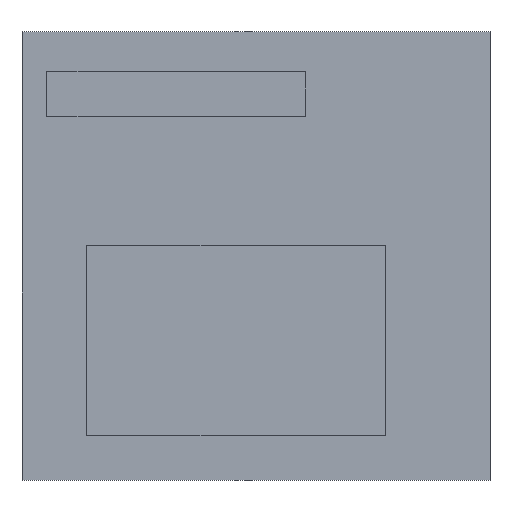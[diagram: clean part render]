
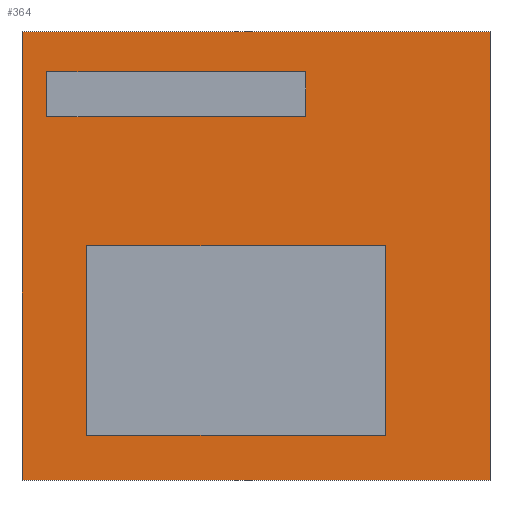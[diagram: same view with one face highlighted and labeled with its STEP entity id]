
A CAD part, top view. The second image highlights one B-rep face of the part: STEP entity #364.
In plain terms, the highlighted planar face has unit normal (0, 0, 1).
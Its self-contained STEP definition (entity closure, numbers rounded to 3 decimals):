
#50 = VERTEX_POINT('',#51);
#51 = CARTESIAN_POINT('',(-47.,-45.,0.8));
#58 = PLANE('',#59);
#59 = AXIS2_PLACEMENT_3D('',#60,#61,#62);
#60 = CARTESIAN_POINT('',(-47.,-45.,-0.8));
#61 = DIRECTION('',(1.,0.,-0.));
#62 = DIRECTION('',(0.,0.,1.));
#70 = PLANE('',#71);
#71 = AXIS2_PLACEMENT_3D('',#72,#73,#74);
#72 = CARTESIAN_POINT('',(-47.,-45.,-0.8));
#73 = DIRECTION('',(-0.,1.,0.));
#74 = DIRECTION('',(0.,0.,1.));
#111 = VERTEX_POINT('',#112);
#112 = CARTESIAN_POINT('',(-47.,45.,0.8));
#126 = PLANE('',#127);
#127 = AXIS2_PLACEMENT_3D('',#128,#129,#130);
#128 = CARTESIAN_POINT('',(-47.,45.,-0.8));
#129 = DIRECTION('',(-0.,1.,0.));
#130 = DIRECTION('',(0.,0.,1.));
#138 = EDGE_CURVE('',#50,#111,#139,.T.);
#139 = SURFACE_CURVE('',#140,(#144,#151),.PCURVE_S1.);
#140 = LINE('',#141,#142);
#141 = CARTESIAN_POINT('',(-47.,-45.,0.8));
#142 = VECTOR('',#143,1.);
#143 = DIRECTION('',(-0.,1.,0.));
#144 = PCURVE('',#58,#145);
#145 = DEFINITIONAL_REPRESENTATION('',(#146),#150);
#146 = LINE('',#147,#148);
#147 = CARTESIAN_POINT('',(1.6,0.));
#148 = VECTOR('',#149,1.);
#149 = DIRECTION('',(0.,-1.));
#150 = ( GEOMETRIC_REPRESENTATION_CONTEXT(2) 
PARAMETRIC_REPRESENTATION_CONTEXT() REPRESENTATION_CONTEXT('2D SPACE',''
  ) );
#151 = PCURVE('',#152,#157);
#152 = PLANE('',#153);
#153 = AXIS2_PLACEMENT_3D('',#154,#155,#156);
#154 = CARTESIAN_POINT('',(-47.,-45.,0.8));
#155 = DIRECTION('',(0.,0.,1.));
#156 = DIRECTION('',(1.,0.,-0.));
#157 = DEFINITIONAL_REPRESENTATION('',(#158),#162);
#158 = LINE('',#159,#160);
#159 = CARTESIAN_POINT('',(0.,0.));
#160 = VECTOR('',#161,1.);
#161 = DIRECTION('',(0.,1.));
#162 = ( GEOMETRIC_REPRESENTATION_CONTEXT(2) 
PARAMETRIC_REPRESENTATION_CONTEXT() REPRESENTATION_CONTEXT('2D SPACE',''
  ) );
#170 = VERTEX_POINT('',#171);
#171 = CARTESIAN_POINT('',(47.,-45.,0.8));
#178 = PLANE('',#179);
#179 = AXIS2_PLACEMENT_3D('',#180,#181,#182);
#180 = CARTESIAN_POINT('',(47.,-45.,-0.8));
#181 = DIRECTION('',(1.,0.,-0.));
#182 = DIRECTION('',(0.,0.,1.));
#221 = VERTEX_POINT('',#222);
#222 = CARTESIAN_POINT('',(47.,45.,0.8));
#243 = EDGE_CURVE('',#170,#221,#244,.T.);
#244 = SURFACE_CURVE('',#245,(#249,#256),.PCURVE_S1.);
#245 = LINE('',#246,#247);
#246 = CARTESIAN_POINT('',(47.,-45.,0.8));
#247 = VECTOR('',#248,1.);
#248 = DIRECTION('',(-0.,1.,0.));
#249 = PCURVE('',#178,#250);
#250 = DEFINITIONAL_REPRESENTATION('',(#251),#255);
#251 = LINE('',#252,#253);
#252 = CARTESIAN_POINT('',(1.6,0.));
#253 = VECTOR('',#254,1.);
#254 = DIRECTION('',(0.,-1.));
#255 = ( GEOMETRIC_REPRESENTATION_CONTEXT(2) 
PARAMETRIC_REPRESENTATION_CONTEXT() REPRESENTATION_CONTEXT('2D SPACE',''
  ) );
#256 = PCURVE('',#152,#257);
#257 = DEFINITIONAL_REPRESENTATION('',(#258),#262);
#258 = LINE('',#259,#260);
#259 = CARTESIAN_POINT('',(94.,0.));
#260 = VECTOR('',#261,1.);
#261 = DIRECTION('',(0.,1.));
#262 = ( GEOMETRIC_REPRESENTATION_CONTEXT(2) 
PARAMETRIC_REPRESENTATION_CONTEXT() REPRESENTATION_CONTEXT('2D SPACE',''
  ) );
#289 = EDGE_CURVE('',#50,#170,#290,.T.);
#290 = SURFACE_CURVE('',#291,(#295,#302),.PCURVE_S1.);
#291 = LINE('',#292,#293);
#292 = CARTESIAN_POINT('',(-47.,-45.,0.8));
#293 = VECTOR('',#294,1.);
#294 = DIRECTION('',(1.,0.,-0.));
#295 = PCURVE('',#70,#296);
#296 = DEFINITIONAL_REPRESENTATION('',(#297),#301);
#297 = LINE('',#298,#299);
#298 = CARTESIAN_POINT('',(1.6,0.));
#299 = VECTOR('',#300,1.);
#300 = DIRECTION('',(0.,1.));
#301 = ( GEOMETRIC_REPRESENTATION_CONTEXT(2) 
PARAMETRIC_REPRESENTATION_CONTEXT() REPRESENTATION_CONTEXT('2D SPACE',''
  ) );
#302 = PCURVE('',#152,#303);
#303 = DEFINITIONAL_REPRESENTATION('',(#304),#308);
#304 = LINE('',#305,#306);
#305 = CARTESIAN_POINT('',(0.,0.));
#306 = VECTOR('',#307,1.);
#307 = DIRECTION('',(1.,0.));
#308 = ( GEOMETRIC_REPRESENTATION_CONTEXT(2) 
PARAMETRIC_REPRESENTATION_CONTEXT() REPRESENTATION_CONTEXT('2D SPACE',''
  ) );
#336 = EDGE_CURVE('',#111,#221,#337,.T.);
#337 = SURFACE_CURVE('',#338,(#342,#349),.PCURVE_S1.);
#338 = LINE('',#339,#340);
#339 = CARTESIAN_POINT('',(-47.,45.,0.8));
#340 = VECTOR('',#341,1.);
#341 = DIRECTION('',(1.,0.,-0.));
#342 = PCURVE('',#126,#343);
#343 = DEFINITIONAL_REPRESENTATION('',(#344),#348);
#344 = LINE('',#345,#346);
#345 = CARTESIAN_POINT('',(1.6,0.));
#346 = VECTOR('',#347,1.);
#347 = DIRECTION('',(0.,1.));
#348 = ( GEOMETRIC_REPRESENTATION_CONTEXT(2) 
PARAMETRIC_REPRESENTATION_CONTEXT() REPRESENTATION_CONTEXT('2D SPACE',''
  ) );
#349 = PCURVE('',#152,#350);
#350 = DEFINITIONAL_REPRESENTATION('',(#351),#355);
#351 = LINE('',#352,#353);
#352 = CARTESIAN_POINT('',(0.,90.));
#353 = VECTOR('',#354,1.);
#354 = DIRECTION('',(1.,0.));
#355 = ( GEOMETRIC_REPRESENTATION_CONTEXT(2) 
PARAMETRIC_REPRESENTATION_CONTEXT() REPRESENTATION_CONTEXT('2D SPACE',''
  ) );
#364 = ADVANCED_FACE('',(#365),#152,.T.);
#365 = FACE_BOUND('',#366,.T.);
#366 = EDGE_LOOP('',(#367,#368,#369,#370));
#367 = ORIENTED_EDGE('',*,*,#138,.F.);
#368 = ORIENTED_EDGE('',*,*,#289,.T.);
#369 = ORIENTED_EDGE('',*,*,#243,.T.);
#370 = ORIENTED_EDGE('',*,*,#336,.F.);
